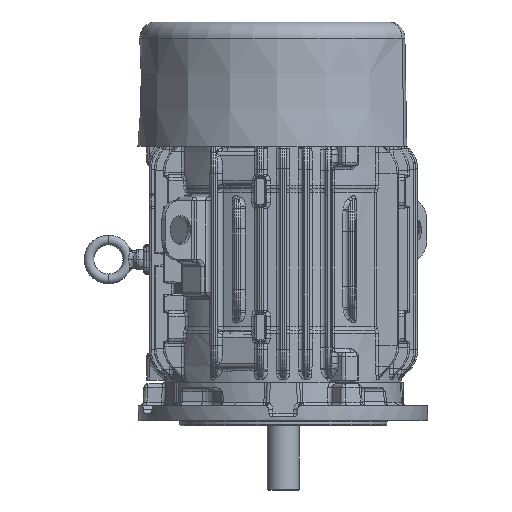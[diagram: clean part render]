
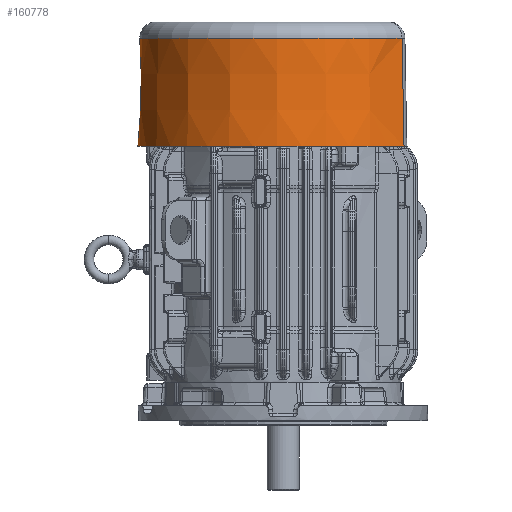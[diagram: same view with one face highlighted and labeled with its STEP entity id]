
A CAD part, left-side view. The second image highlights one B-rep face of the part: STEP entity #160778.
In plain terms, the highlighted conical face has half-angle 1 degrees and reference radius 125.281 mm.
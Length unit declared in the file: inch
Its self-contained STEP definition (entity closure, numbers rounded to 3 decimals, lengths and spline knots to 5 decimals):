
#156836=CARTESIAN_POINT('',(0.,0.,-3.70018));
#156837=DIRECTION('',(0.,0.,1.));
#156838=DIRECTION('',(0.56,-0.828,0.));
#156839=AXIS2_PLACEMENT_3D('',#156836,#156837,#156838);
#156851=CARTESIAN_POINT('',(-2.76191,-4.12542,
0.));
#156863=CARTESIAN_POINT('',(2.76191,-4.12542,0.));
#156894=CARTESIAN_POINT('',(-2.7443,-4.05943,
-3.70018));
#156895=CARTESIAN_POINT('',(-2.74576,-4.06491,
-3.39318));
#156896=CARTESIAN_POINT('',(-2.74867,-4.07577,
-2.78417));
#156897=CARTESIAN_POINT('',(-2.75284,-4.09138,
-1.90924));
#156898=CARTESIAN_POINT('',(-2.75715,-4.10756,
-1.00187));
#156899=CARTESIAN_POINT('',(-2.76029,-4.11934,
-0.34134));
#156900=CARTESIAN_POINT('',(-2.76191,-4.12542,
0.));
#156902=CARTESIAN_POINT('',(2.76191,-4.12542,0.));
#156903=CARTESIAN_POINT('',(2.76058,-4.12044,
-0.27978));
#156904=CARTESIAN_POINT('',(2.75787,-4.11024,
-0.85143));
#156905=CARTESIAN_POINT('',(2.75366,-4.09446,
-1.73641));
#156906=CARTESIAN_POINT('',(2.74919,-4.07772,
-2.67514));
#156907=CARTESIAN_POINT('',(2.74596,-4.06566,
-3.35095));
#156908=CARTESIAN_POINT('',(2.7443,-4.05943,
-3.70018));
#156910=CARTESIAN_POINT('',(0.,0.,0.));
#156911=DIRECTION('',(0.,0.,1.));
#156912=DIRECTION('',(0.556,-0.831,0.));
#156913=AXIS2_PLACEMENT_3D('',#156910,#156911,#156912);
#159896=VERTEX_POINT('',#156851);
#159899=VERTEX_POINT('',#156894);
#159903=VERTEX_POINT('',#156863);
#159904=VERTEX_POINT('',#156908);
#160767=CARTESIAN_POINT('',(0.,0.,-1.85009));
#160768=DIRECTION('',(0.,0.,1.));
#160769=DIRECTION('',(0.,1.,0.));
#160770=AXIS2_PLACEMENT_3D('',#160767,#160768,#160769);
#160771=CONICAL_SURFACE('',#160770,4.93231,1.);
#160772=ORIENTED_EDGE('',*,*,#160750,.F.);
#160773=ORIENTED_EDGE('',*,*,#160637,.F.);
#160774=ORIENTED_EDGE('',*,*,#160690,.F.);
#160775=ORIENTED_EDGE('',*,*,#160705,.T.);
#160776=EDGE_LOOP('',(#160772,#160773,#160774,#160775));
#160777=FACE_OUTER_BOUND('',#160776,.F.);
#160778=ADVANCED_FACE('',(#160777),#160771,.T.);
#156840=CIRCLE('',#156839,4.90001);
#156901=B_SPLINE_CURVE_WITH_KNOTS('',3,(#156894,#156895,#156896,#156897,#156898,
#156899,#156900),.UNSPECIFIED.,.F.,.F.,(4,1,1,1,4),(0.,0.25,0.5,0.75,
1.),.UNSPECIFIED.);
#156909=B_SPLINE_CURVE_WITH_KNOTS('',3,(#156902,#156903,#156904,#156905,#156906,
#156907,#156908),.UNSPECIFIED.,.F.,.F.,(4,1,1,1,4),(0.,0.25,0.5,0.75,
1.),.UNSPECIFIED.);
#156914=CIRCLE('',#156913,4.9646);
#160637=EDGE_CURVE('',#159904,#159899,#156840,.T.);
#160690=EDGE_CURVE('',#159903,#159904,#156909,.T.);
#160705=EDGE_CURVE('',#159903,#159896,#156914,.T.);
#160750=EDGE_CURVE('',#159899,#159896,#156901,.T.);
